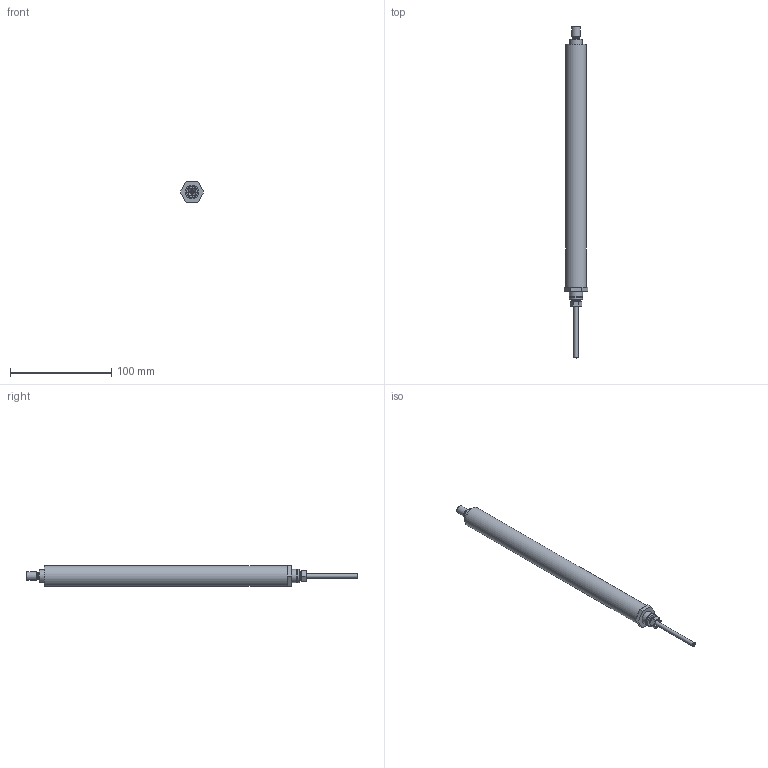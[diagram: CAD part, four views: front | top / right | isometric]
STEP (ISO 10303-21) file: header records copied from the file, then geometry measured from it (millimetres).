
FILE_DESCRIPTION(/* description */ ('Unknown'),/* implementation_level */ '2;1');
FILE_NAME(/* name */ '109.50132 Zylinder CG 1820_eingefahren',/* time_stamp */ '2018-06-15T15:18:29+02:00',/* author */ ('Unknown'),/* organization */ ('Unknown'),/* preprocessor_version */ 'ST-DEVELOPER v16.7',/* originating_system */ 'DEX',/* authorisation */ $);
FILE_SCHEMA (('AUTOMOTIVE_DESIGN {1 0 10303 214 3 1 1}'));
Length unit declared in the file: millimetre
Products named in the file (9): 109.50132; 121.50002; 142.00021; 125.00021; 115.00008_oa_0; 125.00061; 120.00022; 122.00012; 113.00002_70mm
Assembly tree (8 placements, depth 2):
  109.50132
    121.50002
    142.00021
    125.00021
    115.00008_oa_0
    125.00061
    120.00022
    122.00012
    113.00002_70mm
Bounding box: 23.09 x 328 x 20 mm (x, y, z)
Volume: 47115.6 mm3; surface area: 43529.4 mm2
Topology: 7 solids, 7 shells, 97 faces, 192 edges, 121 vertices
Faces by surface type: plane 38, cylinder 28, cone 24, torus 6, sphere 1
Full cylindrical faces by diameter (mm): 2.2 x1, 3.5 x1, 4 x1, 4.1 x1, 4.2 x1, 6 x1, 6.917 x2, 7.763 x2, 8 x4, 8.1 x3, 12 x2, 12.5 x1, 13 x2, 14.4 x1, 17.9 x2, 18 x2, 20 x1
Entity records: 2920 total; most frequent: DIRECTION 410, CARTESIAN_POINT 383, ORIENTED_EDGE 258, AXIS2_PLACEMENT_3D 187, FACE_BOUND 173, EDGE_LOOP 172, EDGE_CURVE 129, VERTEX_POINT 112
